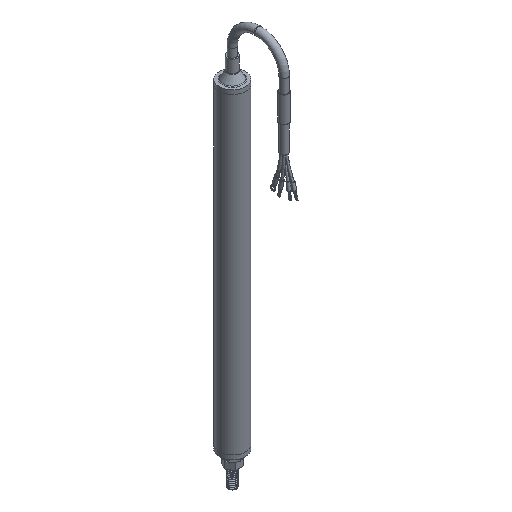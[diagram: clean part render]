
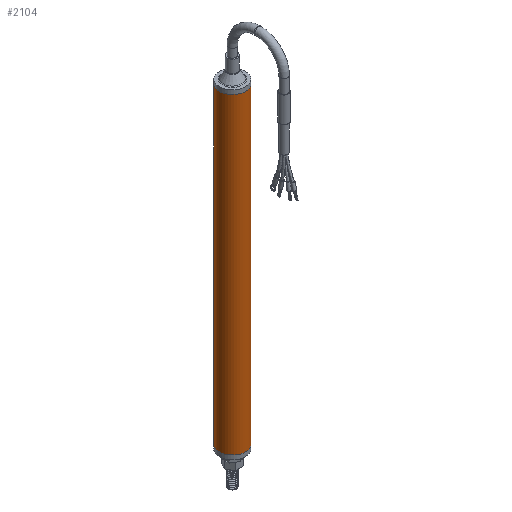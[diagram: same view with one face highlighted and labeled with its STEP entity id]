
A CAD part, isometric view. The second image highlights one B-rep face of the part: STEP entity #2104.
In plain terms, the highlighted cylindrical face has radius 6.35 mm (diameter 12.7 mm), a full revolution.
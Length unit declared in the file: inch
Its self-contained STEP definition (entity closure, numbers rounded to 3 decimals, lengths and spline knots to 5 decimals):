
#98=LINE('',#3305,#245);
#245=VECTOR('',#2707,0.25);
#391=CYLINDRICAL_SURFACE('',#2422,0.25);
#462=FACE_OUTER_BOUND('',#600,.T.);
#600=EDGE_LOOP('',(#1364,#1365,#1366,#1367,#1368));
#744=CIRCLE('',#2410,0.25);
#745=CIRCLE('',#2411,0.25);
#750=CIRCLE('',#2420,0.25);
#846=VERTEX_POINT('',#3282);
#847=VERTEX_POINT('',#3284);
#852=VERTEX_POINT('',#3300);
#1043=EDGE_CURVE('',#847,#846,#744,.T.);
#1044=EDGE_CURVE('',#846,#847,#745,.T.);
#1051=EDGE_CURVE('',#852,#852,#750,.T.);
#1052=EDGE_CURVE('',#852,#847,#98,.T.);
#1364=ORIENTED_EDGE('',*,*,#1051,.F.);
#1365=ORIENTED_EDGE('',*,*,#1052,.T.);
#1366=ORIENTED_EDGE('',*,*,#1043,.T.);
#1367=ORIENTED_EDGE('',*,*,#1044,.T.);
#1368=ORIENTED_EDGE('',*,*,#1052,.F.);
#2104=ADVANCED_FACE('',(#462),#391,.T.);
#2410=AXIS2_PLACEMENT_3D('',#3285,#2679,#2680);
#2411=AXIS2_PLACEMENT_3D('',#3286,#2681,#2682);
#2420=AXIS2_PLACEMENT_3D('',#3302,#2701,#2702);
#2422=AXIS2_PLACEMENT_3D('',#3304,#2705,#2706);
#2679=DIRECTION('center_axis',(0.,0.,-1.));
#2680=DIRECTION('ref_axis',(-1.,0.,0.));
#2681=DIRECTION('center_axis',(0.,0.,-1.));
#2682=DIRECTION('ref_axis',(-1.,0.,0.));
#2701=DIRECTION('center_axis',(0.,0.,-1.));
#2702=DIRECTION('ref_axis',(-1.,0.,0.));
#2705=DIRECTION('center_axis',(0.,0.,-1.));
#2706=DIRECTION('ref_axis',(-1.,0.,0.));
#2707=DIRECTION('',(0.,0.,1.));
#3282=CARTESIAN_POINT('',(0.,0.25,0.));
#3284=CARTESIAN_POINT('',(0.25,0.,0.));
#3285=CARTESIAN_POINT('Origin',(0.,0.,0.));
#3286=CARTESIAN_POINT('Origin',(0.,0.,0.));
#3300=CARTESIAN_POINT('',(0.25,0.,-5.94488));
#3302=CARTESIAN_POINT('Origin',(0.,0.,-5.94488));
#3304=CARTESIAN_POINT('Origin',(0.,0.,0.));
#3305=CARTESIAN_POINT('',(0.25,0.,0.));
